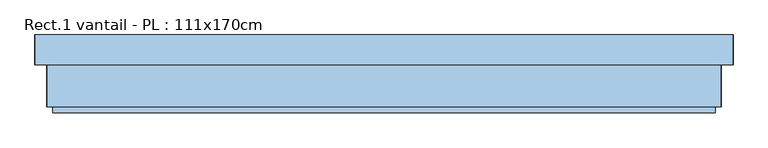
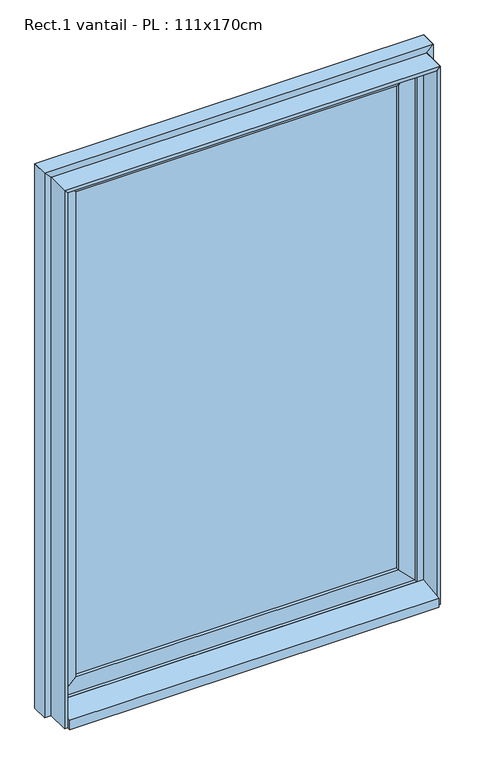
"""IFC4 building model written with IfcOpenShell, lengths in millimetres: window geometry, Rect.1 vantail - PL : 111x170cm."""

from ifc_helpers import new_model, si_unit, frame, origin, origin_with_axes, place, context, project, spatial, polyline, outline, extrude, source, transform, mapped, element, save


def rect_1_vantail_pl_111x170cm_d5858de2(model_context):
    return source(origin(), model_context, "Body", "SweptSolid", [
        extrude(outline(polyline([(485.0, -10.0), (485.0, -30.0), (-485.0, -30.0), (-485.0, -10.0), (485.0, -10.0)])), frame((0.0, 0.0, 90.0), z_axis=(0.0, 0.0, 1.0), x_axis=(1.0, 0.0, 0.0)), (0.0, 0.0, 1.0), 1540.0),
        extrude(outline(polyline([(40.0, -535.0), (90.0, -485.0), (1630.0, -485.0), (1680.0, -535.0), (40.0, -535.0)])), frame((0.0, -40.0, 0.0), z_axis=(0.0, 1.0, 0.0), x_axis=(0.0, 0.0, 1.0)), (0.0, 0.0, 1.0), 40.0),
        extrude(outline(polyline([(90.0, 485.0), (40.0, 535.0), (1680.0, 535.0), (1630.0, 485.0), (90.0, 485.0)])), frame((0.0, -40.0, 0.0), z_axis=(0.0, 1.0, 0.0), x_axis=(0.0, 0.0, 1.0)), (0.0, 0.0, 1.0), 40.0),
        extrude(outline(polyline([(1680.0, 535.0), (1680.0, -535.0), (1630.0, -485.0), (1630.0, 485.0), (1680.0, 535.0)])), frame((0.0, -40.0, 0.0), z_axis=(0.0, 1.0, 0.0), x_axis=(0.0, 0.0, 1.0)), (0.0, 0.0, 1.0), 40.0),
        extrude(outline(polyline([(40.0, 535.0), (90.0, 485.0), (90.0, -485.0), (40.0, -535.0), (40.0, 535.0)])), frame((0.0, -40.0, 0.0), z_axis=(0.0, 1.0, 0.0), x_axis=(0.0, 0.0, 1.0)), (0.0, 0.0, 1.0), 40.0),
        extrude(outline(polyline([(535.0, -50.0), (-535.0, -50.0), (-535.0, 0.0), (535.0, 0.0), (535.0, -50.0)])), origin_with_axes(), (0.0, 0.0, 1.0), 40.0),
        extrude(outline(polyline([(-130.0, 30.0), (-50.0, 40.0), (-50.0, 0.0), (-130.0, 0.0), (-130.0, 30.0)])), frame((-555.0, 0.0, 0.0), z_axis=(1.0, 0.0, 0.0), x_axis=(0.0, 1.0, 0.0)), (0.0, 0.0, 1.0), 1110.0),
        extrude(outline(polyline([(1710.0, 565.0), (1700.0, 555.0), (0.0, 555.0), (0.0, 565.0), (1710.0, 565.0)])), frame((0.0, -120.0, 0.0), z_axis=(0.0, 1.0, 0.0), x_axis=(0.0, 0.0, 1.0)), (0.0, 0.0, 1.0), 70.0),
        extrude(outline(polyline([(1710.0, -565.0), (0.0, -565.0), (0.0, -555.0), (1700.0, -555.0), (1710.0, -565.0)])), frame((0.0, -120.0, 0.0), z_axis=(0.0, 1.0, 0.0), x_axis=(0.0, 0.0, 1.0)), (0.0, 0.0, 1.0), 70.0),
        extrude(outline(polyline([(0.0, -585.0), (0.0, -535.0), (1680.0, -535.0), (1730.0, -585.0), (0.0, -585.0)])), frame((0.0, -50.0, 0.0), z_axis=(0.0, 1.0, 0.0), x_axis=(0.0, 0.0, 1.0)), (0.0, 0.0, 1.0), 50.0),
        extrude(outline(polyline([(0.0, 585.0), (1730.0, 585.0), (1680.0, 535.0), (0.0, 535.0), (0.0, 585.0)])), frame((0.0, -50.0, 0.0), z_axis=(0.0, 1.0, 0.0), x_axis=(0.0, 0.0, 1.0)), (0.0, 0.0, 1.0), 50.0),
        extrude(outline(polyline([(1710.0, -565.0), (1700.0, -555.0), (1700.0, 555.0), (1710.0, 565.0), (1710.0, -565.0)])), frame((0.0, -120.0, 0.0), z_axis=(0.0, 1.0, 0.0), x_axis=(0.0, 0.0, 1.0)), (0.0, 0.0, 1.0), 70.0),
        extrude(outline(polyline([(1730.0, 585.0), (1730.0, -585.0), (1680.0, -535.0), (1680.0, 535.0), (1730.0, 585.0)])), frame((0.0, -50.0, 0.0), z_axis=(0.0, 1.0, 0.0), x_axis=(0.0, 0.0, 1.0)), (0.0, 0.0, 1.0), 50.0),
    ])


if __name__ == "__main__":
    model = new_model("IFC4")
    model_context = context("Model", 3, world=origin())
    ifc_project = project(units=[si_unit("LENGTHUNIT", "METRE", prefix="MILLI")], contexts=[model_context])
    site = spatial("IfcSite", under=ifc_project)
    building = spatial("IfcBuilding", under=site)
    placement = place(None, origin())
    rect_1_vantail_pl_111x170cm_shape = rect_1_vantail_pl_111x170cm_d5858de2(model_context)
    element("IfcWindow", 1, ObjectType="Rect.1 vantail - PL : 111x170cm", at=placement, inside=building, context=model_context, shape_type="MappedRepresentation", body=[
        mapped(rect_1_vantail_pl_111x170cm_shape, transform((0.0, 0.0, 0.0), x_axis=(1.0, 0.0, 0.0), y_axis=(0.0, 1.0, 0.0), z_axis=(0.0, 0.0, 1.0))),
    ])
    save(model, "model.ifc")
